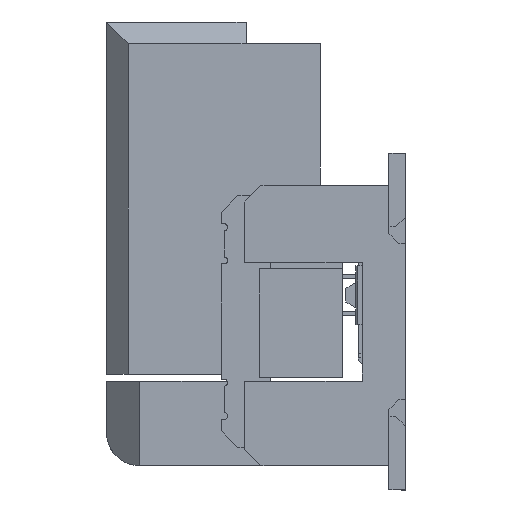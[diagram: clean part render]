
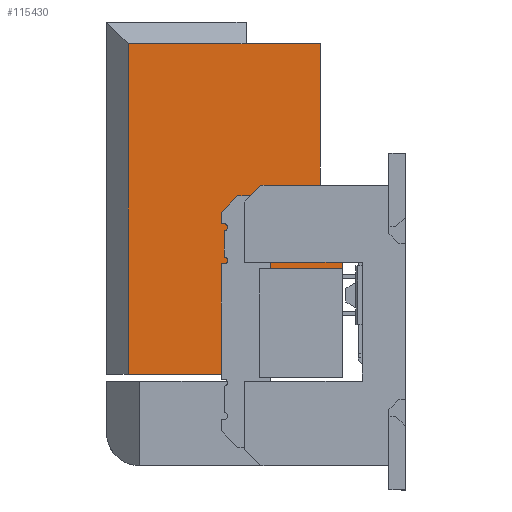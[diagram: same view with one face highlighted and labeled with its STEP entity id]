
A CAD part, left-side view. The second image highlights one B-rep face of the part: STEP entity #115430.
In plain terms, the highlighted planar face has unit normal (-1, 0, 0) as drawn and (1, 0, 0) by its records, which use the part's own axes.
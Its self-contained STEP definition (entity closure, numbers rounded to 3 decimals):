
#114640=CARTESIAN_POINT('',(7.01,2.75,
4.4));
#114650=DIRECTION('',(1.,0.,-0.));
#114660=DIRECTION('',(0.,0.,1.));
#114670=AXIS2_PLACEMENT_3D('',#114640,#114650,#114660);
#114680=PLANE('',#114670);
#114690=CARTESIAN_POINT('',(7.01,8.055,
8.35));
#114700=DIRECTION('',(0.,1.,0.));
#114710=VECTOR('',#114700,1.);
#114720=LINE('',#114690,#114710);
#114730=CARTESIAN_POINT('',(7.01,2.75,
8.35));
#114740=VERTEX_POINT('',#114730);
#114750=CARTESIAN_POINT('',(7.01,12.71,
8.35));
#114760=VERTEX_POINT('',#114750);
#114770=EDGE_CURVE('',#114740,#114760,#114720,.T.);
#114780=ORIENTED_EDGE('',*,*,#114770,.F.);
#114790=CARTESIAN_POINT('',(7.01,12.71,
6.9));
#114800=DIRECTION('',(0.,0.,-1.));
#114810=VECTOR('',#114800,1.);
#114820=LINE('',#114790,#114810);
#114830=CARTESIAN_POINT('',(7.01,12.71,
4.8));
#114840=VERTEX_POINT('',#114830);
#114850=EDGE_CURVE('',#114760,#114840,#114820,.T.);
#114860=ORIENTED_EDGE('',*,*,#114850,.F.);
#114870=CARTESIAN_POINT('',(7.01,12.71,
1.9));
#114880=DIRECTION('',(0.,0.,1.));
#114890=VECTOR('',#114880,1.);
#114900=LINE('',#114870,#114890);
#114910=CARTESIAN_POINT('',(7.01,12.71,
2.56));
#114920=VERTEX_POINT('',#114910);
#114930=EDGE_CURVE('',#114920,#114840,#114900,.T.);
#114940=ORIENTED_EDGE('',*,*,#114930,.T.);
#114950=CARTESIAN_POINT('',(7.01,2.75,
2.56));
#114960=DIRECTION('',(0.,-1.,0.));
#114970=VECTOR('',#114960,1.);
#114980=LINE('',#114950,#114970);
#114990=CARTESIAN_POINT('',(7.01,8.33,
2.56));
#115000=VERTEX_POINT('',#114990);
#115010=EDGE_CURVE('',#114920,#115000,#114980,.T.);
#115020=ORIENTED_EDGE('',*,*,#115010,.F.);
#115030=CARTESIAN_POINT('',(7.01,8.33,
1.9));
#115040=DIRECTION('',(0.,0.,-1.));
#115050=VECTOR('',#115040,1.);
#115060=LINE('',#115030,#115050);
#115070=CARTESIAN_POINT('',(7.01,8.33,
1.9));
#115080=VERTEX_POINT('',#115070);
#115090=EDGE_CURVE('',#115000,#115080,#115060,.T.);
#115100=ORIENTED_EDGE('',*,*,#115090,.F.);
#115110=CARTESIAN_POINT('',(7.01,2.75,
1.9));
#115120=DIRECTION('',(0.,1.,0.));
#115130=VECTOR('',#115120,1.);
#115140=LINE('',#115110,#115130);
#115150=CARTESIAN_POINT('',(7.01,5.93,
1.9));
#115160=VERTEX_POINT('',#115150);
#115170=EDGE_CURVE('',#115160,#115080,#115140,.T.);
#115180=ORIENTED_EDGE('',*,*,#115170,.T.);
#115190=CARTESIAN_POINT('',(7.01,5.93,
1.9));
#115200=DIRECTION('',(0.,0.,1.));
#115210=VECTOR('',#115200,1.);
#115220=LINE('',#115190,#115210);
#115230=CARTESIAN_POINT('',(7.01,5.93,
4.4));
#115240=VERTEX_POINT('',#115230);
#115250=EDGE_CURVE('',#115160,#115240,#115220,.T.);
#115260=ORIENTED_EDGE('',*,*,#115250,.F.);
#115270=CARTESIAN_POINT('',(7.01,2.75,
4.4));
#115280=DIRECTION('',(0.,1.,0.));
#115290=VECTOR('',#115280,1.);
#115300=LINE('',#115270,#115290);
#115310=CARTESIAN_POINT('',(7.01,2.75,
4.4));
#115320=VERTEX_POINT('',#115310);
#115330=EDGE_CURVE('',#115320,#115240,#115300,.T.);
#115340=ORIENTED_EDGE('',*,*,#115330,.T.);
#115350=CARTESIAN_POINT('',(7.01,2.75,
9.));
#115360=DIRECTION('',(0.,0.,-1.));
#115370=VECTOR('',#115360,1.);
#115380=LINE('',#115350,#115370);
#115390=EDGE_CURVE('',#114740,#115320,#115380,.T.);
#115400=ORIENTED_EDGE('',*,*,#115390,.T.);
#115410=EDGE_LOOP('',(#115400,#115340,#115260,#115180,#115100,#115020,
#114940,#114860,#114780));
#115420=FACE_OUTER_BOUND('',#115410,.T.);
#115430=ADVANCED_FACE('',(#115420),#114680,.T.);
